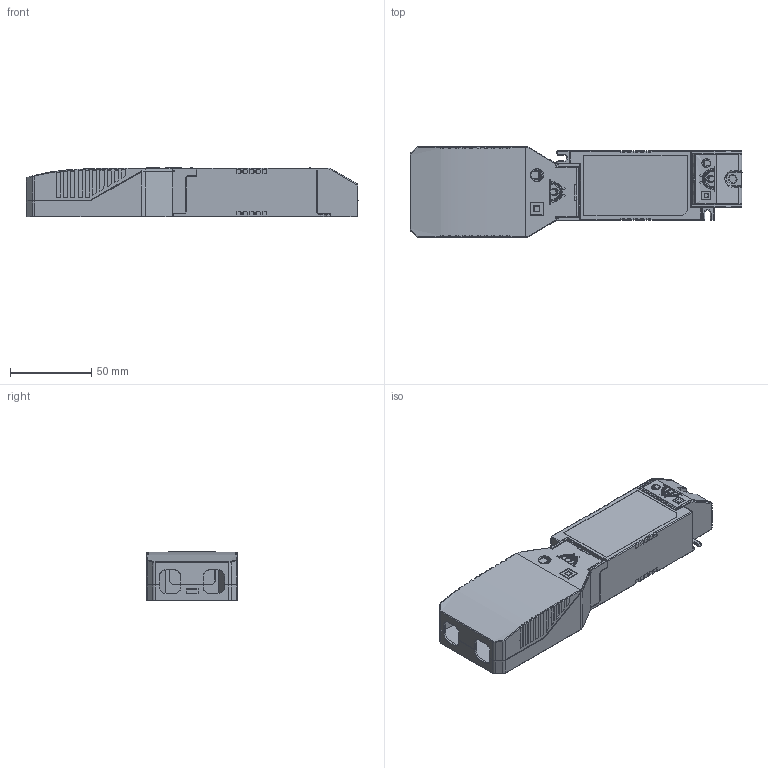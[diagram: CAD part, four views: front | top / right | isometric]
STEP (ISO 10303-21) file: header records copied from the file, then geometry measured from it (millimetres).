
FILE_DESCRIPTION(/* description */ (''),/* implementation_level */ '2;1');
FILE_NAME(/* name */ 'MINI（~2',/* time_stamp */ '2023-07-06T14:11:48+08:00',/* author */ (''),/* organization */ (''),/* preprocessor_version */ 'ST-DEVELOPER v16.5',/* originating_system */ '',/* authorisation */ '');
FILE_SCHEMA (('AUTOMOTIVE_DESIGN'));
Products named in the file (1): Document
Bounding box: 204.5 x 56 x 30.6 mm (x, y, z)
Volume: 142724.3 mm3; surface area: 62430.6 mm2
Topology: 4 solids, 4 shells, 1969 faces, 5061 edges, 3134 vertices
Faces by surface type: bspline 1322, plane 647
Entity records: 106355 total; most frequent: CARTESIAN_POINT 74844, ORIENTED_EDGE 10122, EDGE_CURVE 5061, B_SPLINE_CURVE_WITH_KNOTS 4420, VERTEX_POINT 3134, EDGE_LOOP 2019, ADVANCED_FACE 1969, FACE_OUTER_BOUND 1969
